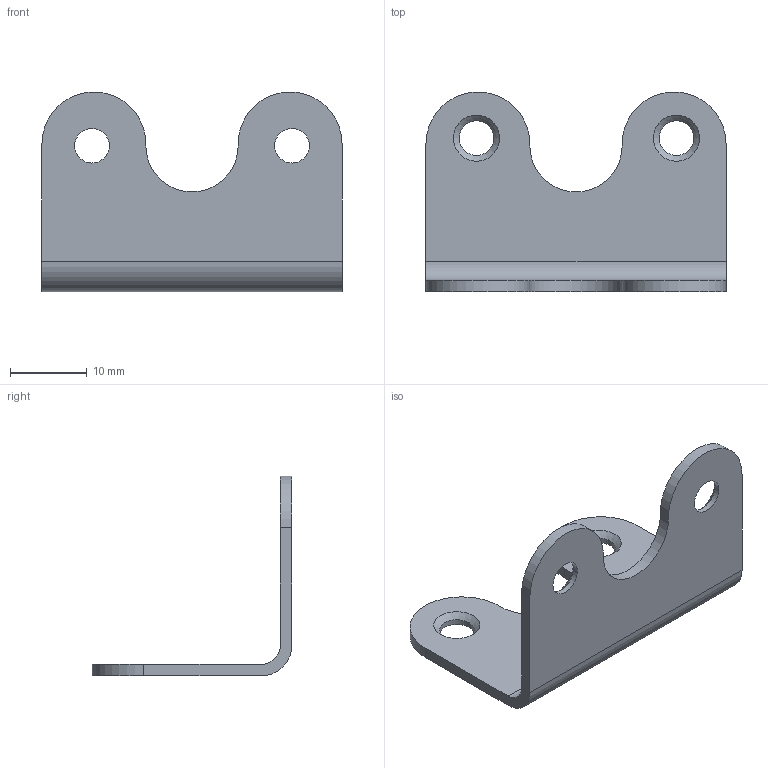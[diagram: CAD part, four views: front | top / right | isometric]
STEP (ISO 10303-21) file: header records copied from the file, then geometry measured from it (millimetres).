
FILE_DESCRIPTION(/* description */ (''),/* implementation_level */ '2;1');
FILE_NAME(/* name */ '\\NAS\db20\S-AGS3926\DR_S-AGS3926.stp',/* time_stamp */ '2017-10-12T16:56:27+09:00',/* author */ ('user'),/* organization */ (''),/* preprocessor_version */ 'ST-DEVELOPER v15.6',/* originating_system */ 'Autodesk Inventor 2015',/* authorisation */ '');
FILE_SCHEMA (('AUTOMOTIVE_DESIGN { 1 0 10303 214 3 1 1 }'));
Length unit declared in the file: millimetre
Products named in the file (1): DR_S-AGS3926
Bounding box: 39 x 25.98 x 25.98 mm (x, y, z)
Volume: 2220.5 mm3; surface area: 3339.3 mm2
Topology: 1 solids, 1 shells, 22 faces, 60 edges, 40 vertices
Faces by surface type: cylinder 12, plane 6, cone 4
Full cylindrical faces by diameter (mm): 4.5 x4
Entity records: 676 total; most frequent: DIRECTION 122, CARTESIAN_POINT 107, ORIENTED_EDGE 96, AXIS2_PLACEMENT_3D 51, EDGE_CURVE 48, EDGE_LOOP 38, VERTEX_POINT 36, CIRCLE 28
